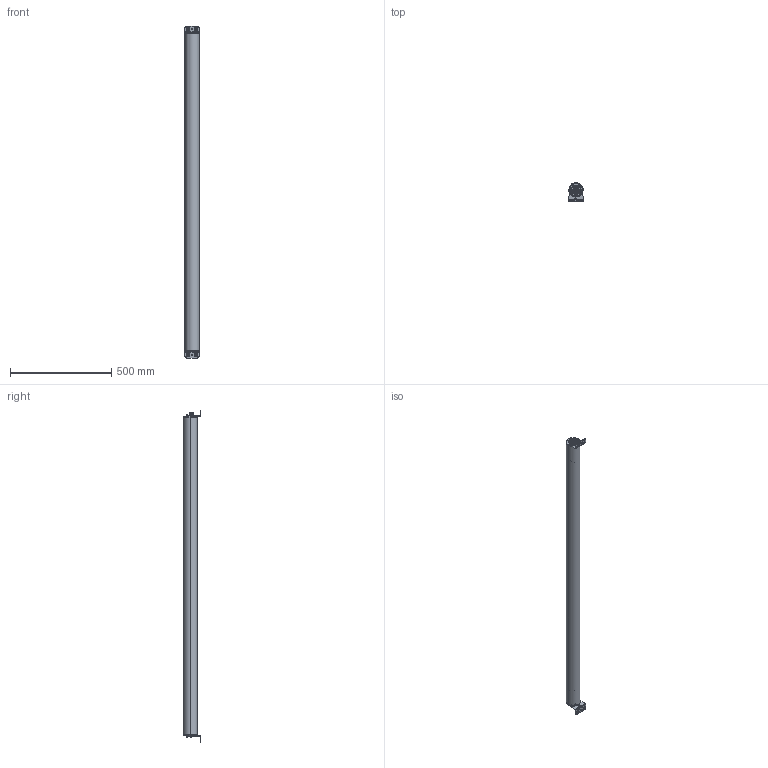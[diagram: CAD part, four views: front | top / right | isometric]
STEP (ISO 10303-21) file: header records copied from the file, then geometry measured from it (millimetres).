
FILE_DESCRIPTION((''),'2;1');
FILE_NAME('2009410_ASM','2020-12-04T13:59:12',('j.rink'),(''),'CREO PARAMETRIC BY PTC INC, 2019292','CREO PARAMETRIC BY PTC INC, 2019292','');
FILE_SCHEMA(('AUTOMOTIVE_DESIGN { 1 0 10303 214 1 1 1 1 }'));
Length unit declared in the file: millimetre
Products named in the file (5): 2009381; 2009383; 2009409; 2009384; 2009410_ASM
Assembly tree (5 placements, depth 2):
  2009410_ASM
    2009381  x2
    2009383
    2009409
    2009384
Bounding box: 70.98 x 88.92 x 1642.5 mm (x, y, z)
Volume: 1323229.7 mm3; surface area: 782602 mm2
Topology: 3 solids, 17 shells, 1290 faces, 3200 edges, 2062 vertices
Faces by surface type: plane 579, extrusion 254, cylinder 160, bspline 109, torus 94, cone 80, revolution 12, sphere 2
Entity records: 68195 total; most frequent: CARTESIAN_POINT 28152, ORIENTED_EDGE 5716, DIRECTION 4591, PRESENTATION_STYLE_ASSIGNMENT 3574, STYLED_ITEM 3049, CURVE_STYLE 3035, EDGE_CURVE 2887, VERTEX_POINT 1822
